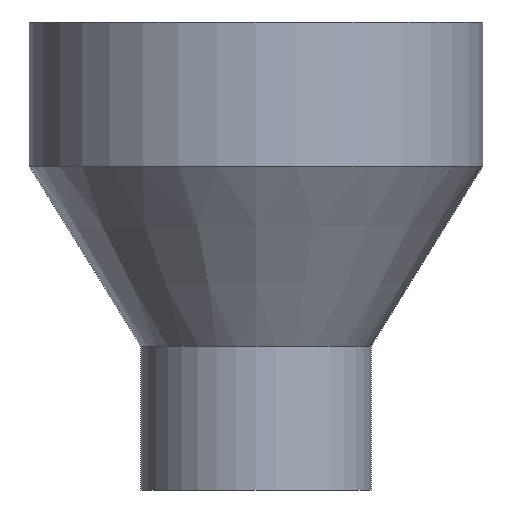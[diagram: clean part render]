
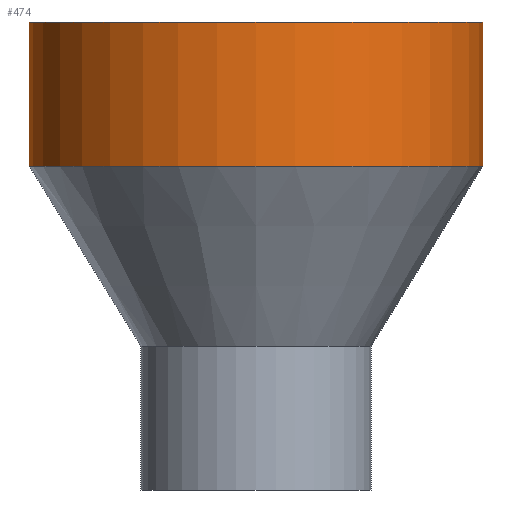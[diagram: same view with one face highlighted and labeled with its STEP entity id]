
A CAD part, front view. The second image highlights one B-rep face of the part: STEP entity #474.
In plain terms, the highlighted cylindrical face has radius 31.5 mm (diameter 63 mm), a partial arc.
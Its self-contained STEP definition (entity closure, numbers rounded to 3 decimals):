
#1 = AXIS2_PLACEMENT_3D ( 'NONE', #209, #269, #27 ) ;
#2 = CIRCLE ( 'NONE', #163, 31.5 ) ;
#10 = AXIS2_PLACEMENT_3D ( 'NONE', #45, #46, #47 ) ;
#20 = VECTOR ( 'NONE', #373, 1000. ) ;
#26 = VECTOR ( 'NONE', #415, 1000. ) ;
#27 = DIRECTION ( 'NONE',  ( -1., 0., 0. ) ) ;
#37 = CARTESIAN_POINT ( 'NONE',  ( 0., 0., 65. ) ) ;
#38 = DIRECTION ( 'NONE',  ( 0., 0., -1. ) ) ;
#39 = DIRECTION ( 'NONE',  ( -1., 0., 0. ) ) ;
#45 = CARTESIAN_POINT ( 'NONE',  ( 0., 0., 45. ) ) ;
#46 = DIRECTION ( 'NONE',  ( 0., 0., -1. ) ) ;
#47 = DIRECTION ( 'NONE',  ( 1., 0., 0. ) ) ;
#61 = CIRCLE ( 'NONE', #10, 31.5 ) ;
#74 = EDGE_CURVE ( 'NONE', #354, #241, #410, .T. ) ;
#76 = EDGE_CURVE ( 'NONE', #159, #240, #416, .T. ) ;
#159 = VERTEX_POINT ( 'NONE', #302 ) ;
#163 = AXIS2_PLACEMENT_3D ( 'NONE', #37, #38, #39 ) ;
#209 = CARTESIAN_POINT ( 'NONE',  ( 0., 0., 55. ) ) ;
#210 = CYLINDRICAL_SURFACE ( 'NONE', #1, 31.5 ) ;
#211 = FACE_OUTER_BOUND ( 'NONE', #317, .T. ) ;
#240 = VERTEX_POINT ( 'NONE', #257 ) ;
#241 = VERTEX_POINT ( 'NONE', #258 ) ;
#257 = CARTESIAN_POINT ( 'NONE',  ( -31.5, 0., 45. ) ) ;
#258 = CARTESIAN_POINT ( 'NONE',  ( 31.5, 0., 45. ) ) ;
#262 = CARTESIAN_POINT ( 'NONE',  ( 31.5, 0., 65. ) ) ;
#269 = DIRECTION ( 'NONE',  ( 0., 0., -1. ) ) ;
#302 = CARTESIAN_POINT ( 'NONE',  ( -31.5, 0., 65. ) ) ;
#317 = EDGE_LOOP ( 'NONE', ( #335, #336, #340, #341 ) ) ;
#335 = ORIENTED_EDGE ( 'NONE', *, *, #74, .F. ) ;
#336 = ORIENTED_EDGE ( 'NONE', *, *, #477, .T. ) ;
#340 = ORIENTED_EDGE ( 'NONE', *, *, #76, .T. ) ;
#341 = ORIENTED_EDGE ( 'NONE', *, *, #479, .F. ) ;
#354 = VERTEX_POINT ( 'NONE', #262 ) ;
#372 = CARTESIAN_POINT ( 'NONE',  ( -31.5, 0., 55. ) ) ;
#373 = DIRECTION ( 'NONE',  ( 0., 0., -1. ) ) ;
#410 = LINE ( 'NONE', #414, #26 ) ;
#414 = CARTESIAN_POINT ( 'NONE',  ( 31.5, 0., 55. ) ) ;
#415 = DIRECTION ( 'NONE',  ( 0., 0., -1. ) ) ;
#416 = LINE ( 'NONE', #372, #20 ) ;
#474 = ADVANCED_FACE ( 'NONE', ( #211 ), #210, .T. ) ;
#477 = EDGE_CURVE ( 'NONE', #354, #159, #2, .T. ) ;
#479 = EDGE_CURVE ( 'NONE', #241, #240, #61, .T. ) ;
